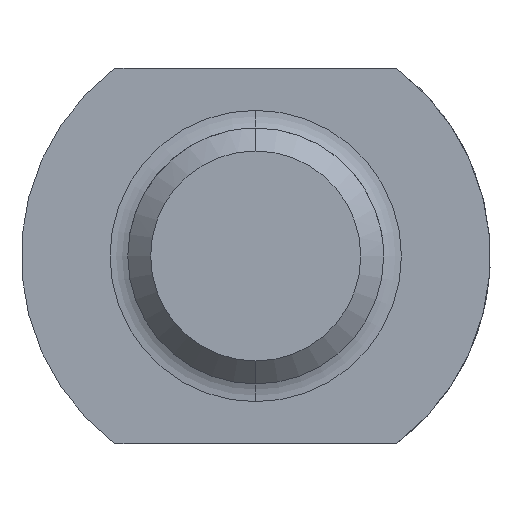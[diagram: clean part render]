
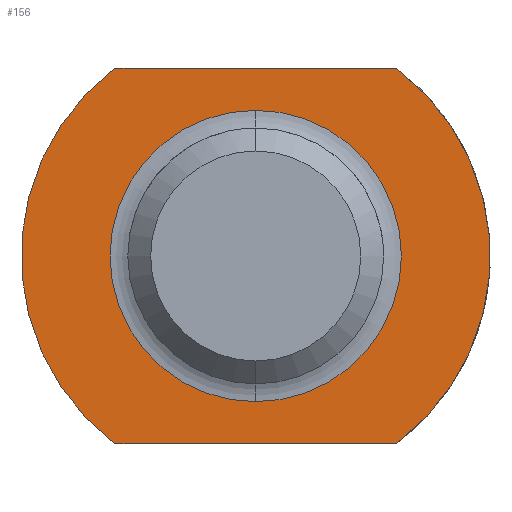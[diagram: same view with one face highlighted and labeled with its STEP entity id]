
A CAD part, left-side view. The second image highlights one B-rep face of the part: STEP entity #156.
In plain terms, the highlighted planar face has unit normal (-1, 0, 0).
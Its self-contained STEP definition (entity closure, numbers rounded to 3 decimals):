
#57=CARTESIAN_POINT('Line Origine',(0.,0.,-8.8)) ;
#61=CARTESIAN_POINT('Vertex',(0.,-6.6,-8.8)) ;
#63=CARTESIAN_POINT('Vertex',(0.,6.6,-8.8)) ;
#92=CARTESIAN_POINT('Axis2P3D Location',(0.,6.833,0.)) ;
#97=CARTESIAN_POINT('Axis2P3D Location',(0.,0.,0.)) ;
#101=CARTESIAN_POINT('Vertex',(0.,6.6,8.8)) ;
#104=CARTESIAN_POINT('Axis2P3D Location',(0.,0.,0.)) ;
#108=CARTESIAN_POINT('Vertex',(0.,-6.6,8.8)) ;
#111=CARTESIAN_POINT('Line Origine',(0.,0.,8.8)) ;
#122=CARTESIAN_POINT('Axis2P3D Location',(0.,0.,0.)) ;
#126=CARTESIAN_POINT('Vertex',(0.,6.833,0.)) ;
#128=CARTESIAN_POINT('Vertex',(0.,0.,6.833)) ;
#131=CARTESIAN_POINT('Axis2P3D Location',(0.,0.,0.)) ;
#135=CARTESIAN_POINT('Vertex',(0.,-6.833,0.)) ;
#138=CARTESIAN_POINT('Axis2P3D Location',(0.,0.,0.)) ;
#142=CARTESIAN_POINT('Vertex',(0.,0.,-6.833)) ;
#145=CARTESIAN_POINT('Axis2P3D Location',(0.,0.,0.)) ;
#58=DIRECTION('Vector Direction',(0.,1.,0.)) ;
#93=DIRECTION('Axis2P3D Direction',(1.,0.,-0.)) ;
#94=DIRECTION('Axis2P3D XDirection',(-0.,0.,-1.)) ;
#98=DIRECTION('Axis2P3D Direction',(1.,0.,-0.)) ;
#105=DIRECTION('Axis2P3D Direction',(1.,0.,-0.)) ;
#112=DIRECTION('Vector Direction',(0.,-1.,0.)) ;
#123=DIRECTION('Axis2P3D Direction',(1.,0.,-0.)) ;
#132=DIRECTION('Axis2P3D Direction',(1.,0.,-0.)) ;
#139=DIRECTION('Axis2P3D Direction',(1.,0.,-0.)) ;
#146=DIRECTION('Axis2P3D Direction',(1.,0.,-0.)) ;
#95=AXIS2_PLACEMENT_3D('Plane Axis2P3D',#92,#93,#94) ;
#99=AXIS2_PLACEMENT_3D('Circle Axis2P3D',#97,#98,$) ;
#106=AXIS2_PLACEMENT_3D('Circle Axis2P3D',#104,#105,$) ;
#124=AXIS2_PLACEMENT_3D('Circle Axis2P3D',#122,#123,$) ;
#133=AXIS2_PLACEMENT_3D('Circle Axis2P3D',#131,#132,$) ;
#140=AXIS2_PLACEMENT_3D('Circle Axis2P3D',#138,#139,$) ;
#147=AXIS2_PLACEMENT_3D('Circle Axis2P3D',#145,#146,$) ;
#117=ORIENTED_EDGE('',*,*,#103,.F.) ;
#118=ORIENTED_EDGE('',*,*,#65,.F.) ;
#119=ORIENTED_EDGE('',*,*,#110,.F.) ;
#120=ORIENTED_EDGE('',*,*,#115,.F.) ;
#151=ORIENTED_EDGE('',*,*,#130,.T.) ;
#152=ORIENTED_EDGE('',*,*,#137,.T.) ;
#153=ORIENTED_EDGE('',*,*,#144,.T.) ;
#154=ORIENTED_EDGE('',*,*,#149,.T.) ;
#155=FACE_BOUND('',#150,.T.) ;
#59=VECTOR('Line Direction',#58,1.) ;
#113=VECTOR('Line Direction',#112,1.) ;
#156=ADVANCED_FACE('AGS3301M12',(#121,#155),#96,.F.) ;
#100=CIRCLE('generated circle',#99,11.) ;
#107=CIRCLE('generated circle',#106,11.) ;
#125=CIRCLE('generated circle',#124,6.833) ;
#134=CIRCLE('generated circle',#133,6.833) ;
#141=CIRCLE('generated circle',#140,6.833) ;
#148=CIRCLE('generated circle',#147,6.833) ;
#65=EDGE_CURVE('',#62,#64,#60,.T.) ;
#103=EDGE_CURVE('',#64,#102,#100,.T.) ;
#110=EDGE_CURVE('',#109,#62,#107,.T.) ;
#115=EDGE_CURVE('',#102,#109,#114,.T.) ;
#130=EDGE_CURVE('',#127,#129,#125,.T.) ;
#137=EDGE_CURVE('',#129,#136,#134,.T.) ;
#144=EDGE_CURVE('',#136,#143,#141,.T.) ;
#149=EDGE_CURVE('',#143,#127,#148,.T.) ;
#116=EDGE_LOOP('',(#117,#118,#119,#120)) ;
#150=EDGE_LOOP('',(#151,#152,#153,#154)) ;
#121=FACE_OUTER_BOUND('',#116,.T.) ;
#60=LINE('Line',#57,#59) ;
#114=LINE('Line',#111,#113) ;
#96=PLANE('Plane',#95) ;
#62=VERTEX_POINT('',#61) ;
#64=VERTEX_POINT('',#63) ;
#102=VERTEX_POINT('',#101) ;
#109=VERTEX_POINT('',#108) ;
#127=VERTEX_POINT('',#126) ;
#129=VERTEX_POINT('',#128) ;
#136=VERTEX_POINT('',#135) ;
#143=VERTEX_POINT('',#142) ;
